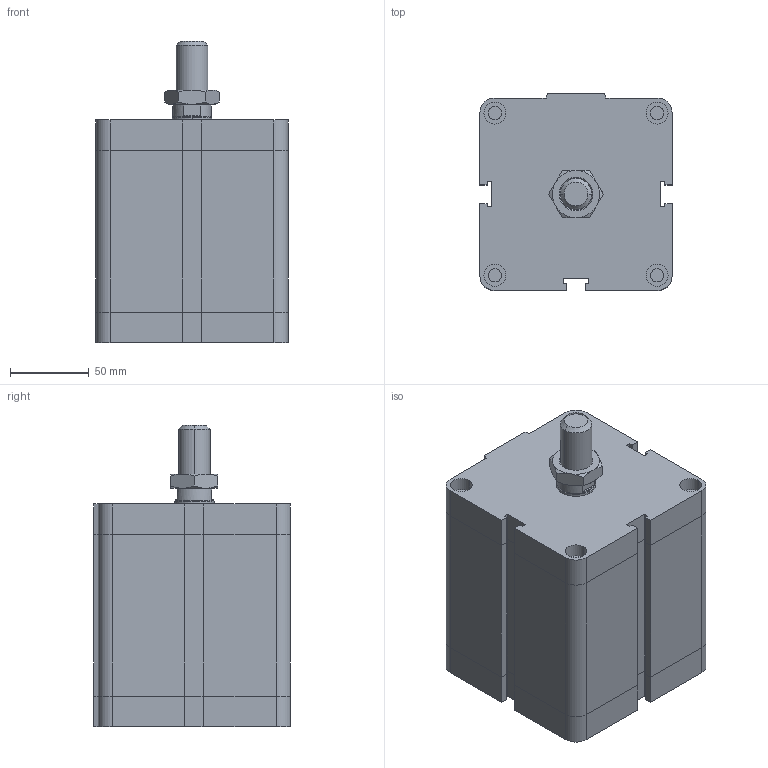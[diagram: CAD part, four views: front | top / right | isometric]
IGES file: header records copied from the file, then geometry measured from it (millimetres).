
Global section: file name: No Iges File Name specified; native system: Autodesk Inventor 2009; preprocessor: AutoDesk Inventor Iges Exporter R2009; author: rivolro1; date: 20081219.162945; units: millimetre
Bounding box: 122 x 125 x 191.5 mm (x, y, z)
Volume: 2070620 mm3; surface area: 135050.3 mm2
Topology: 3 solids, 3 shells, 216 faces, 472 edges, 282 vertices
Faces by surface type: plane 121, bspline 37, cylinder 20, cone 20, revolution 18
